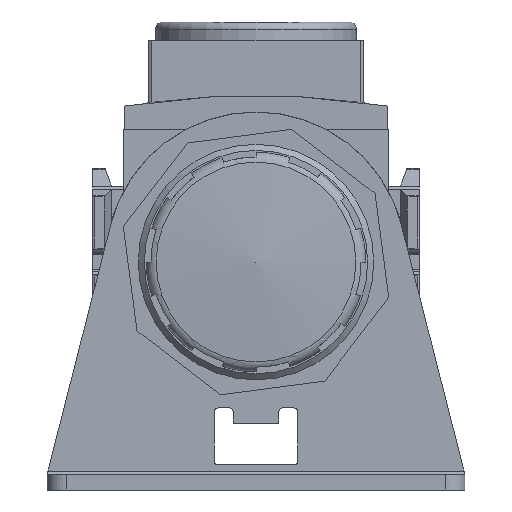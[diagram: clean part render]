
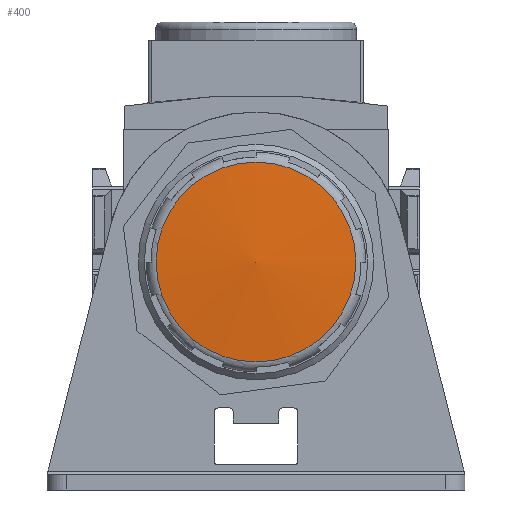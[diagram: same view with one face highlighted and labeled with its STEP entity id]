
A CAD part, front view. The second image highlights one B-rep face of the part: STEP entity #400.
In plain terms, the highlighted spherical face has radius 99.7 mm.
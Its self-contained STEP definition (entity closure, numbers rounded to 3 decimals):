
#400 = ADVANCED_FACE( '', ( #1116, #1117 ), #1118, .T. );
#1116 = FACE_BOUND( '', #2195, .T. );
#1117 = FACE_OUTER_BOUND( '', #2196, .T. );
#1118 = SPHERICAL_SURFACE( '', #2197, 99.7 );
#2195 = VERTEX_LOOP( '', #3299 );
#2196 = EDGE_LOOP( '', ( #3300 ) );
#2197 = AXIS2_PLACEMENT_3D( '', #3301, #3302, #3303 );
#3299 = VERTEX_POINT( '', #6449 );
#3300 = ORIENTED_EDGE( '', *, *, #6450, .T. );
#3301 = CARTESIAN_POINT( '', ( 0., 31.228, 0. ) );
#3302 = DIRECTION( '', ( 0., -1., 0. ) );
#3303 = DIRECTION( '', ( 1., 0., 0. ) );
#6449 = CARTESIAN_POINT( '', ( 0., -68.473, 0. ) );
#6450 = EDGE_CURVE( '', #7726, #7726, #7727, .T. );
#7726 = VERTEX_POINT( '', #9601 );
#7727 = CIRCLE( '', #9602, 13.148 );
#9601 = CARTESIAN_POINT( '', ( 0., -67.602, -13.148 ) );
#9602 = AXIS2_PLACEMENT_3D( '', #12149, #12150, #12151 );
#12149 = CARTESIAN_POINT( '', ( 0., -67.602, 0. ) );
#12150 = DIRECTION( '', ( 0., -1., 0. ) );
#12151 = DIRECTION( '', ( 0., 0., -1. ) );
